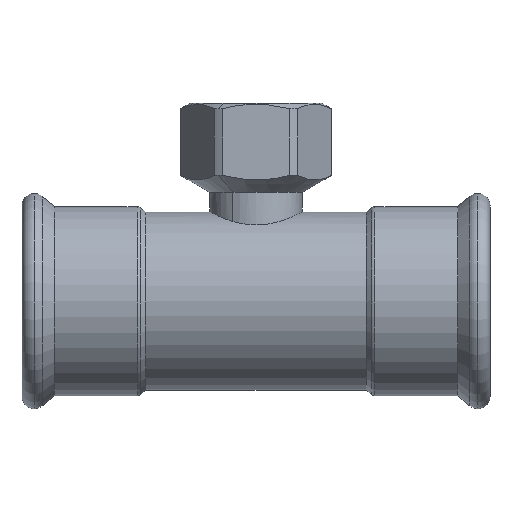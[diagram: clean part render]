
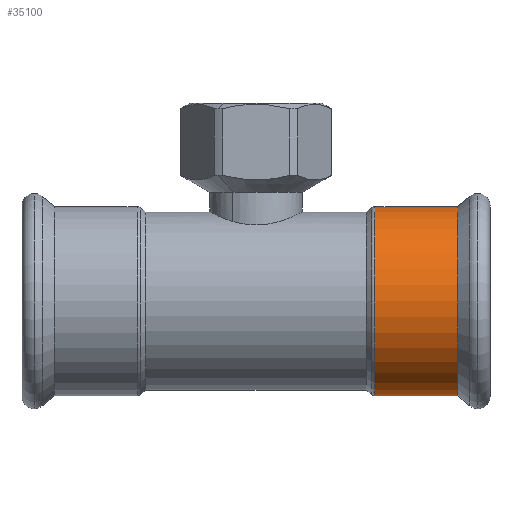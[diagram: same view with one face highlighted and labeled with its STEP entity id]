
A CAD part, top view. The second image highlights one B-rep face of the part: STEP entity #35100.
In plain terms, the highlighted cylindrical face has radius 28.7 mm (diameter 57.4 mm), a partial arc.
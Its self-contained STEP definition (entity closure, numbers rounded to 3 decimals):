
#10880=CARTESIAN_POINT('',(1.644,124.123,0.));
#10890=VERTEX_POINT('',#10880);
#10940=CARTESIAN_POINT('',(30.344,124.123,0.));
#10950=DIRECTION('',(0.,-1.,0.));
#10960=DIRECTION('',(-1.,0.,0.));
#10970=AXIS2_PLACEMENT_3D('',#10940,#10950,#10960);
#10980=CIRCLE('',#10970,28.7);
#10990=CARTESIAN_POINT('',(59.044,124.123,0.));
#11000=VERTEX_POINT('',#10990);
#16400=CARTESIAN_POINT('',(1.644,98.949,0.));
#16410=VERTEX_POINT('',#16400);
#16590=CARTESIAN_POINT('',(59.044,98.949,
0.));
#16600=VERTEX_POINT('',#16590);
#16630=CARTESIAN_POINT('',(30.344,98.949,0.));
#16640=DIRECTION('',(0.,-1.,0.));
#16650=DIRECTION('',(1.,0.,0.));
#16660=AXIS2_PLACEMENT_3D('',#16630,#16640,#16650);
#16670=CIRCLE('',#16660,28.7);
#16730=CARTESIAN_POINT('',(30.344,111.845,0.));
#16740=DIRECTION('',(0.,1.,0.));
#16750=DIRECTION('',(1.,0.,0.));
#16760=AXIS2_PLACEMENT_3D('',#16730,#16740,#16750);
#16770=CYLINDRICAL_SURFACE('',#16760,28.7);
#16780=CARTESIAN_POINT('',(1.644,111.845,
0.));
#16790=DIRECTION('',(0.,1.,0.));
#16800=VECTOR('',#16790,1.);
#16810=LINE('',#16780,#16800);
#16820=EDGE_CURVE('',#16410,#10890,#16810,.T.);
#16850=CARTESIAN_POINT('',(59.044,111.845,0.));
#16860=DIRECTION('',(0.,1.,0.));
#16870=VECTOR('',#16860,1.);
#16880=LINE('',#16850,#16870);
#16890=EDGE_CURVE('',#16600,#11000,#16880,.T.);
#32440=EDGE_CURVE('',#16600,#16410,#16670,.T.);
#35030=ORIENTED_EDGE('',*,*,#32440,.F.);
#35040=ORIENTED_EDGE('',*,*,#16820,.F.);
#35050=EDGE_CURVE('',#11000,#10890,#10980,.T.);
#35060=ORIENTED_EDGE('',*,*,#35050,.T.);
#35070=ORIENTED_EDGE('',*,*,#16890,.T.);
#35080=EDGE_LOOP('',(#35070,#35060,#35040,#35030));
#35090=FACE_OUTER_BOUND('',#35080,.T.);
#35100=ADVANCED_FACE('',(#35090),#16770,.T.);
